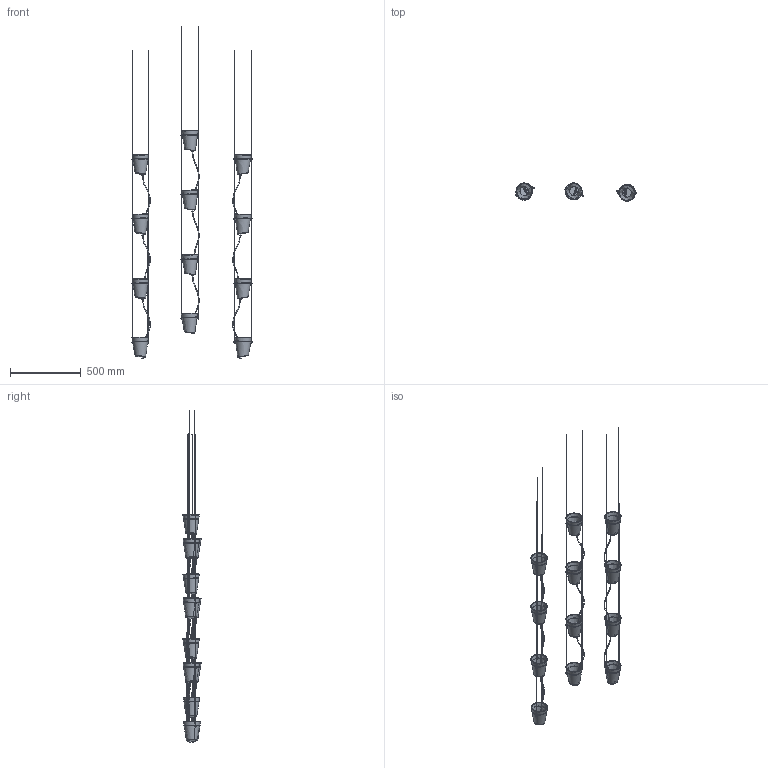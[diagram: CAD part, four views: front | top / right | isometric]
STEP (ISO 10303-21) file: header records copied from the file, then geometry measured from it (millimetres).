
FILE_DESCRIPTION(/* description */ (''),/* implementation_level */ '2;1');
FILE_NAME(/* name */ 'Window garden_pendant',/* time_stamp */ '2025-07-17T12:06:36+02:00',/* author */ (''),/* organization */ (''),/* preprocessor_version */ 'ST-DEVELOPER v16.5',/* originating_system */ 'Rhino 7.37',/* authorisation */ '');
FILE_SCHEMA (('AUTOMOTIVE_DESIGN'));
Products named in the file (1): Document
Bounding box: 849.57 x 128.43 x 2346.74 mm (x, y, z)
Volume: 2611083.2 mm3; surface area: 1197407.5 mm2
Topology: 81 solids, 108 shells, 2106 faces, 6040 edges, 3734 vertices
Faces by surface type: bspline 1170, cylinder 660, plane 276
Entity records: 140618 total; most frequent: CARTESIAN_POINT 105014, ORIENTED_EDGE 11736, EDGE_CURVE 5922, VERTEX_POINT 3696, B_SPLINE_CURVE_WITH_KNOTS 3438, EDGE_LOOP 2262, ADVANCED_FACE 2106, FACE_OUTER_BOUND 2106
